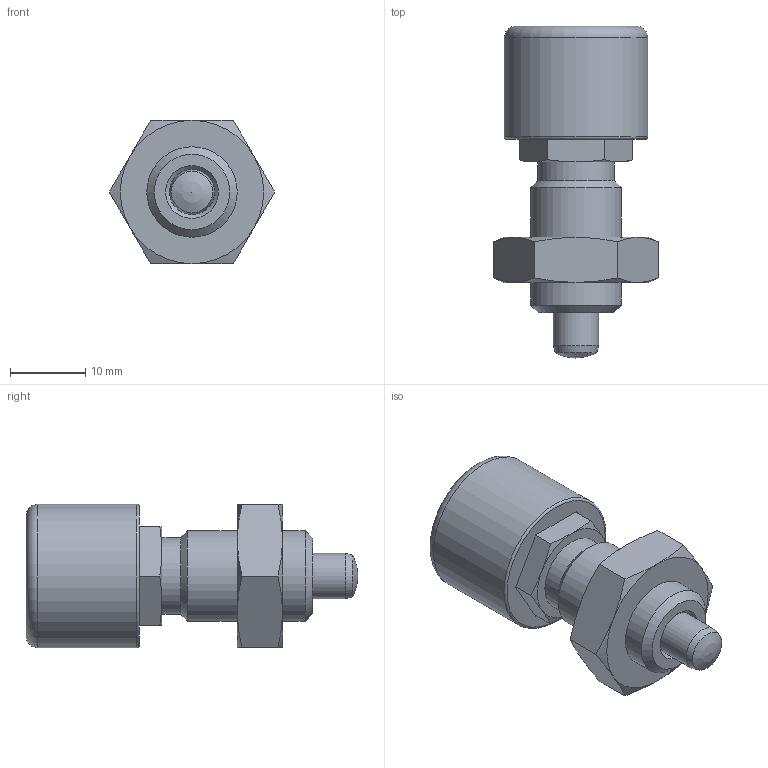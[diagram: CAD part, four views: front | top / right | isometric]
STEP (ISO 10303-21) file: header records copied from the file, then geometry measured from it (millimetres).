
FILE_DESCRIPTION( ( 'STEP AP203' ), '1' );
FILE_NAME( 'C:/Temp/Ganter_Step_05_03_2020/data/3_1/gn514/gn514_ak/Locking plunger GN 514-6-AK (activated).stp', '2020-03-12T08:32:07', ( 'License CC BY-ND 4.0' ), ( 'CADENAS' ), ' ', 'PARTsolutions', ' ' );
FILE_SCHEMA( ( 'CONFIG_CONTROL_DESIGN' ) );
Length unit declared in the file: millimetre
Products named in the file (3): Locking plunger GN 514-6-AK (activated); _Locking plunger GN 514-6-AK (activated)-1; _Locking plunger GN 514-6-AK (activated)-2
Assembly tree (2 placements, depth 2):
  Locking plunger GN 514-6-AK (activated)
    _Locking plunger GN 514-6-AK (activated)-1
    _Locking plunger GN 514-6-AK (activated)-2
Bounding box: 21.94 x 44 x 19 mm (x, y, z)
Volume: 7660.1 mm3; surface area: 5560.9 mm2
Topology: 2 solids, 2 shells, 83 faces, 168 edges, 101 vertices
Faces by surface type: plane 34, cone 23, cylinder 14, torus 10, bspline 1, sphere 1
Full cylindrical faces by diameter (mm): 6 x6, 8 x4, 10.2 x1, 12 x2, 19 x1
Entity records: 2229 total; most frequent: CARTESIAN_POINT 567, DIRECTION 322, ORIENTED_EDGE 266, AXIS2_PLACEMENT_3D 146, EDGE_CURVE 133, EDGE_LOOP 128, FACE_OUTER_BOUND 107, VERTEX_POINT 99
